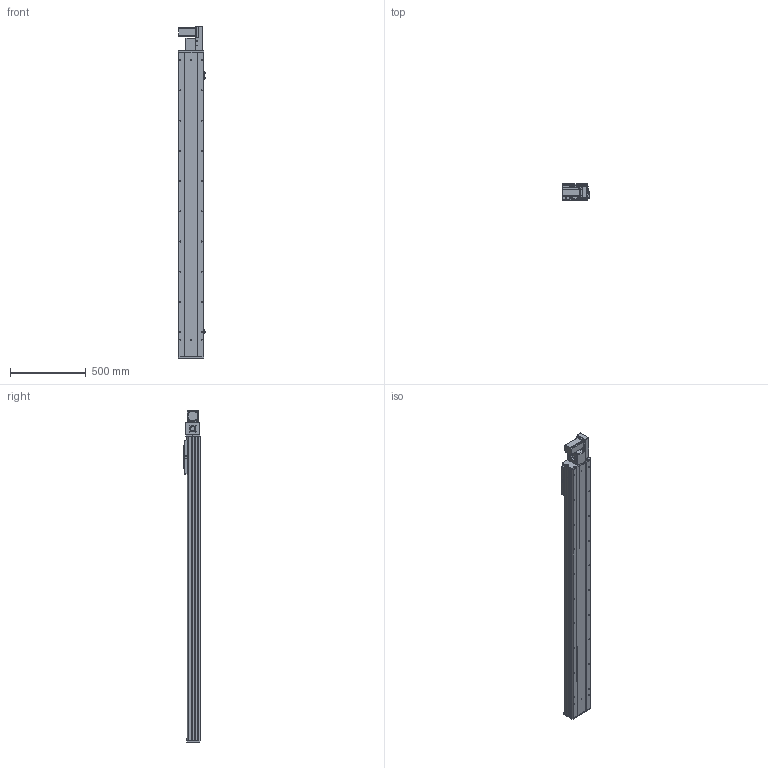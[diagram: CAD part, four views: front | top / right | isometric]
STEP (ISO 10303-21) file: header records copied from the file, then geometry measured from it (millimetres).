
FILE_DESCRIPTION (( 'STEP AP203' ), '1' );
FILE_NAME ('Y170CB-D105-S1700-BR-P400W.STEP', '2020-02-19T09:29:16', ( '微软用户' ), ( '微软中国' ), 'SwSTEP 2.0', 'SolidWorks 2017', '' );
FILE_SCHEMA (( 'CONFIG_CONTROL_DESIGN' ));
Length unit declared in the file: millimetre
Products named in the file (17): 70B喘謫眊----; B-源倛裔啣; 17B-耜蚾蟀諉啣----; 0B-萇儂楊擘啣; san松下电机400不带刹车----; Y70俋欶BR----; 70CB-掛极-; --70CB --喘謫眊楊擘啣-; 70CB-耜裔啣-; 70C--詩湍揤踡え-; 70CB--耜裔; 70C-雄赽釱-奻-; 0C--雄赽釱俋欶-170; 70CB-詩湍--; Y100-135俋离換覜ん--; Y170CB-陔俋离換覜結え---; Y170CB-D105-S1700-BR-P400W
Assembly tree (20 placements, depth 2):
  Y170CB-D105-S1700-BR-P400W
    70B喘謫眊----
    B-源倛裔啣
    17B-耜蚾蟀諉啣----
    0B-萇儂楊擘啣
    san松下电机400不带刹车----
    Y70俋欶BR----
    70CB-掛极-
    --70CB --喘謫眊楊擘啣-
    70CB-耜裔啣-  x2
    70C--詩湍揤踡え-  x2
    70CB--耜裔
    70C-雄赽釱-奻-
    0C--雄赽釱俋欶-170
    70CB-詩湍--
    Y100-135俋离換覜ん--  x3
    Y170CB-陔俋离換覜結え---
Bounding box: 183.5 x 107 x 2197 mm (x, y, z)
Volume: 9287878.8 mm3; surface area: 3337459.7 mm2
Topology: 20 solids, 20 shells, 1025 faces, 2753 edges, 1826 vertices
Faces by surface type: cylinder 539, plane 462, cone 24
Entity records: 32627 total; most frequent: CARTESIAN_POINT 6021, DIRECTION 5308, ORIENTED_EDGE 4988, EDGE_CURVE 2494, AXIS2_PLACEMENT_3D 1945, VERTEX_POINT 1656, VECTOR 1418, LINE 1418
